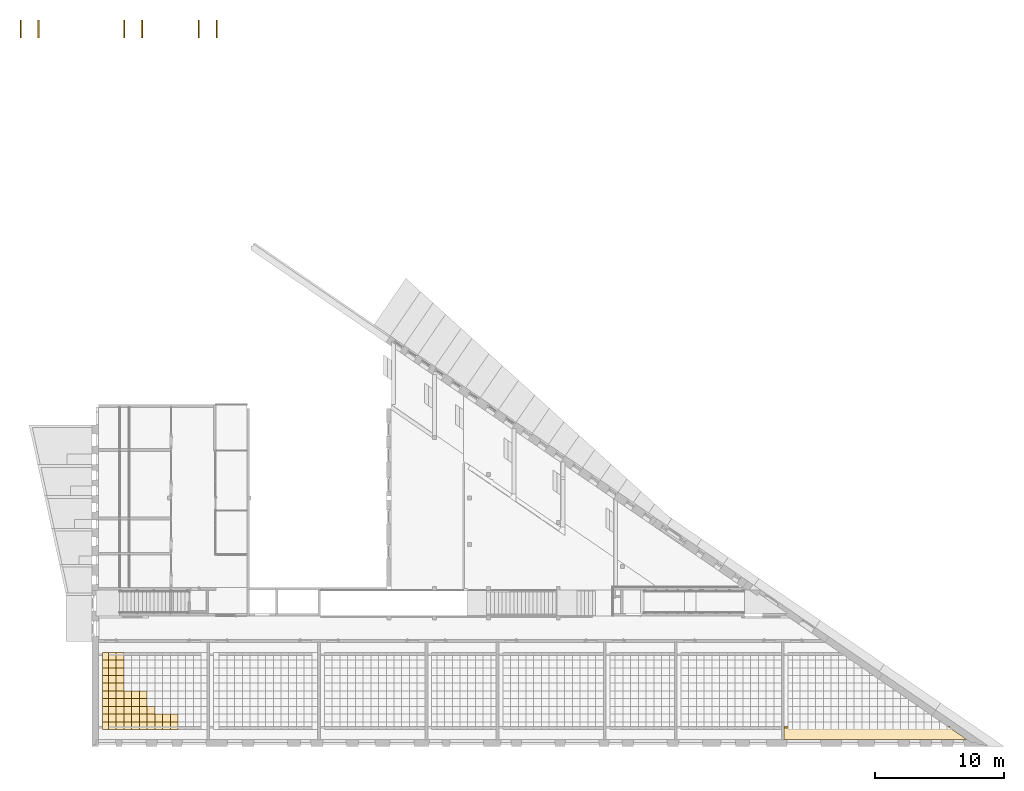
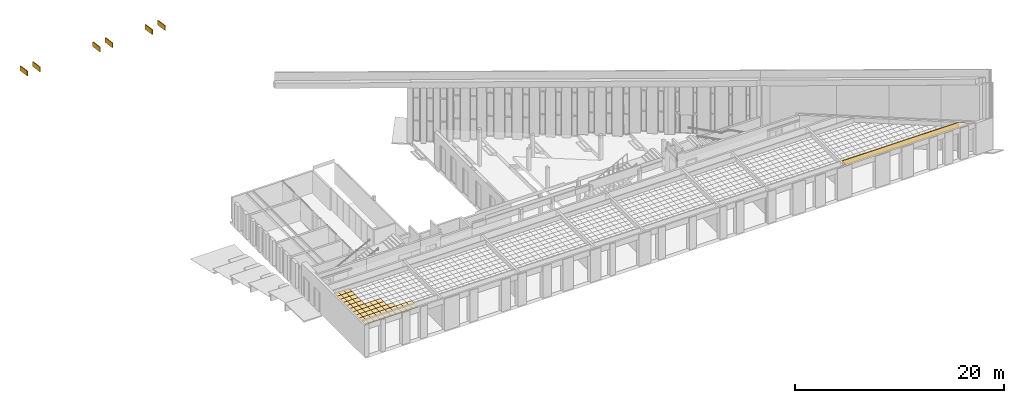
# One storey, part 64 of 79: 62 coverings.
"""IFC2X3 building model written with IfcOpenShell, lengths in millimetres."""

from ifc_helpers import new_model, entity, si_unit, converted_unit, derived_unit, money_unit, direction, frame, origin_with_axes, place, context, subcontext, project, spatial, faceted_brep, material, material_list, type_object, element, save


model = new_model("IFC2X3")

# Units and contexts
model_context = context("Model", 3, precision=0.01, world=origin_with_axes(), true_north=direction((0.0, 1.0)))
body_context = subcontext(model_context, "Body", "Model", "MODEL_VIEW")
ifc_project = project(units=[si_unit("LENGTHUNIT", "METRE", prefix="MILLI"), si_unit("AREAUNIT", "SQUARE_METRE"), si_unit("VOLUMEUNIT", "CUBIC_METRE"), converted_unit("PLANEANGLEUNIT", "DEGREE", entity("IfcPlaneAngleMeasure", 0.0174532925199), si_unit("PLANEANGLEUNIT", "RADIAN"), dimensions=[0, 0, 0, 0, 0, 0, 0]), si_unit("SOLIDANGLEUNIT", "STERADIAN"), money_unit("EUR"), converted_unit("TIMEUNIT", "Year", entity("IfcTimeMeasure", 31556926.0), si_unit("TIMEUNIT", "SECOND"), dimensions=[0, 0, 1, 0, 0, 0, 0]), si_unit("MASSUNIT", "GRAM", prefix="KILO"), si_unit("THERMODYNAMICTEMPERATUREUNIT", "DEGREE_CELSIUS"), si_unit("LUMINOUSINTENSITYUNIT", "LUMEN"), si_unit("ENERGYUNIT", "JOULE", prefix="MEGA"), derived_unit("THERMALCONDUCTANCEUNIT", [(si_unit("POWERUNIT", "WATT"), 1), (si_unit("LENGTHUNIT", "METRE"), -1), (si_unit("THERMODYNAMICTEMPERATUREUNIT", "KELVIN"), -1)]), derived_unit("SPECIFICHEATCAPACITYUNIT", [(si_unit("ENERGYUNIT", "JOULE"), 1), (si_unit("MASSUNIT", "GRAM", prefix="KILO"), -1), (si_unit("THERMODYNAMICTEMPERATUREUNIT", "KELVIN"), -1)]), derived_unit("MASSDENSITYUNIT", [(si_unit("MASSUNIT", "GRAM", prefix="KILO"), 1), (si_unit("VOLUMEUNIT", "CUBIC_METRE"), -1)])], contexts=[model_context])

# Site, building, storey
site_placement = place(None, origin_with_axes())
site = spatial("IfcSite", under=ifc_project, at=site_placement, Name="L.Koidula tn 11b", CompositionType="ELEMENT")
building_placement = place(site_placement, origin_with_axes())
building = spatial("IfcBuilding", under=site, at=building_placement, Name="Rakvere Riigigümnaasium", CompositionType="ELEMENT")
storey_placement = place(building_placement, frame((0.0, 0.0, 3720.0), z_axis=(0.0, 0.0, 1.0), x_axis=(1.0, 0.0, 0.0)))
storey = spatial("IfcBuildingStorey", under=building, at=storey_placement, Name="2.korrus +3,72", CompositionType="ELEMENT", Elevation=3720.0)

# Coverings
ifc_material_1 = material(Name="mineraalvill+karkass")
ifc_material_2 = material(Name="SKR-02_Kipsplaat")
ifc_material_list_1 = material_list([ifc_material_1, ifc_material_2])
covering_type_1 = type_object("IfcCoveringType", Name="SA-LV-kips 79", PredefinedType="CEILING")
covering_1_placement = place(storey_placement, frame((88669.1151496, 6435.45437174, 2762.5), z_axis=(0.0, 0.0, 1.0), x_axis=(1.0, 0.0, 0.0)))
element("IfcCovering", 1, at=covering_1_placement, inside=storey, type_object=covering_type_1, material=ifc_material_list_1, Name="L-04 vert", PredefinedType="CEILING", context=body_context, shape_type="Brep", body=[
    faceted_brep([(12843.9323535, 12.5, 557.500000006), (12843.9323535, 78.5, 557.500000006), (0.0, 78.5, 557.500000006), (0.0, 12.5, 557.500000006), (12843.9323535, 12.5, 0.0), (12843.9323535, 78.5, 0.0), (0.0, 78.5, 0.0), (0.0, 12.5, 0.0)], [[[0, 1, 2, 3]], [[0, 4, 5, 1]], [[1, 5, 6, 2]], [[3, 2, 6, 7]], [[4, 0, 3, 7]], [[5, 4, 7, 6]]]),
    faceted_brep([(12843.9323535, 0.0, 557.500000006), (12843.9323535, 12.5, 557.500000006), (0.0, 12.5, 557.500000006), (0.0, 0.0, 557.500000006), (12843.9323535, 0.0, 0.0), (12843.9323535, 12.5, 0.0), (0.0, 12.5, 0.0), (0.0, 0.0, 0.0)], [[[0, 1, 2, 3]], [[0, 4, 5, 1]], [[1, 5, 6, 2]], [[3, 2, 6, 7]], [[4, 0, 3, 7]], [[5, 4, 7, 6]]]),
])
ifc_material_3 = material(Name="Karkass")
ifc_material_4 = material(Name="Kipsplaat")
ifc_material_list_2 = material_list([ifc_material_3, ifc_material_4])
covering_type_2 = type_object("IfcCoveringType", Name="SA-LV-Kips-moodul 55", PredefinedType="CEILING")
for number, where, z_axis, x_axis, name in (
    (2, (36255.1640196, 6890.45359412, 2750.0), (0.0, 0.0, 1.0), (1.0, 0.0, 0.0), "L-03"),
    (3, (36255.1640196, 6290.45359412, 2750.0), (0.0, 0.0, 1.0), (1.0, 0.0, 0.0), "L-03"),
    (4, (36255.1640196, 11690.4535941, 2750.0), (0.0, 0.0, 1.0), (1.0, 0.0, 0.0), "L-03"),
    (5, (36255.1640196, 7490.45359412, 2750.0), (0.0, 0.0, 1.0), (1.0, 0.0, 0.0), "L-03"),
    (6, (36255.1640196, 8690.45359412, 2750.0), (0.0, 0.0, 1.0), (1.0, 0.0, 0.0), "L-03"),
    (7, (36255.1640196, 8090.45359412, 2750.0), (0.0, 0.0, 1.0), (1.0, 0.0, 0.0), "L-03"),
    (8, (36255.1640196, 9290.45359412, 2750.0), (0.0, 0.0, 1.0), (1.0, 0.0, 0.0), "L-03"),
    (9, (36255.1640196, 10490.4535941, 2750.0), (0.0, 0.0, 1.0), (1.0, 0.0, 0.0), "L-03"),
    (10, (36255.1640196, 9890.45359412, 2750.0), (0.0, 0.0, 1.0), (1.0, 0.0, 0.0), "L-03"),
    (11, (36255.1640196, 11090.4535941, 2750.0), (0.0, 0.0, 1.0), (1.0, 0.0, 0.0), "L-03"),
):
    element("IfcCovering", number, at=place(storey_placement, frame(where, z_axis=z_axis, x_axis=x_axis)), inside=storey, type_object=covering_type_2, material=ifc_material_list_2, Name=name, PredefinedType="CEILING", context=body_context, shape_type="Brep", body=[
        faceted_brep([(599.999948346, 0.0, 12.5), (599.999948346, 0.0, 54.5), (0.0, 0.0, 54.5), (0.0, 0.0, 12.5), (599.999948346, 600.0, 12.5), (599.999948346, 600.0, 54.5), (0.0, 600.0, 54.5), (0.0, 600.0, 12.5)], [[[0, 1, 2, 3]], [[4, 5, 1, 0]], [[2, 1, 5, 6]], [[3, 2, 6, 7]], [[3, 7, 4, 0]], [[7, 6, 5, 4]]]),
        faceted_brep([(0.0, 0.0, 0.0), (599.999948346, 0.0, 0.0), (599.999948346, 0.0, 12.5), (0.0, 0.0, 12.5), (0.0, 600.0, 0.0), (599.999948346, 600.0, 0.0), (599.999948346, 600.0, 12.5), (0.0, 600.0, 12.5)], [[[0, 1, 2, 3]], [[0, 4, 5, 1]], [[1, 5, 6, 2]], [[3, 2, 6, 7]], [[4, 0, 3, 7]], [[5, 4, 7, 6]]]),
    ])
for number, where, z_axis, x_axis, name in (
    (12, (35810.3235284, 8690.45359412, 2750.0), (0.0, 0.0, 1.0), (1.0, 0.0, 0.0), "L-03"),
    (13, (35810.3235284, 8090.45359412, 2750.0), (0.0, 0.0, 1.0), (1.0, 0.0, 0.0), "L-03"),
    (14, (35810.3235284, 7490.45359412, 2750.0), (0.0, 0.0, 1.0), (1.0, 0.0, 0.0), "L-03"),
    (15, (35810.3235284, 11090.4535941, 2750.0), (0.0, 0.0, 1.0), (1.0, 0.0, 0.0), "L-03"),
    (16, (35810.3235284, 10490.4535941, 2750.0), (0.0, 0.0, 1.0), (1.0, 0.0, 0.0), "L-03"),
    (17, (35810.3235284, 9890.45359412, 2750.0), (0.0, 0.0, 1.0), (1.0, 0.0, 0.0), "L-03"),
    (18, (35810.3235284, 6890.45359412, 2750.0), (0.0, 0.0, 1.0), (1.0, 0.0, 0.0), "L-03"),
    (19, (35810.3235284, 6290.45359412, 2750.0), (0.0, 0.0, 1.0), (1.0, 0.0, 0.0), "L-03"),
    (20, (35810.3235284, 9290.45359412, 2750.0), (0.0, 0.0, 1.0), (1.0, 0.0, 0.0), "L-03"),
    (21, (35810.3235284, 11690.4535941, 2750.0), (0.0, 0.0, 1.0), (1.0, 0.0, 0.0), "L-03"),
):
    element("IfcCovering", number, at=place(storey_placement, frame(where, z_axis=z_axis, x_axis=x_axis)), inside=storey, type_object=covering_type_2, material=ifc_material_list_2, Name=name, PredefinedType="CEILING", context=body_context, shape_type="Brep", body=[
        faceted_brep([(444.84049122, 0.0, 12.5), (444.84049122, 0.0, 54.5), (0.0, 0.0, 54.5), (0.0, 0.0, 12.5), (444.84049122, 600.0, 12.5), (444.84049122, 600.0, 54.5), (0.0, 600.0, 54.5), (0.0, 600.0, 12.5)], [[[0, 1, 2, 3]], [[4, 5, 1, 0]], [[2, 1, 5, 6]], [[3, 2, 6, 7]], [[3, 7, 4, 0]], [[7, 6, 5, 4]]]),
        faceted_brep([(0.0, 0.0, 0.0), (444.84049122, 0.0, 0.0), (444.84049122, 0.0, 12.5), (0.0, 0.0, 12.5), (0.0, 600.0, 0.0), (444.84049122, 600.0, 0.0), (444.84049122, 600.0, 12.5), (0.0, 600.0, 12.5)], [[[0, 1, 2, 3]], [[0, 4, 5, 1]], [[1, 5, 6, 2]], [[3, 2, 6, 7]], [[4, 0, 3, 7]], [[5, 4, 7, 6]]]),
    ])
for number, where, z_axis, x_axis, name in (
    (22, (40455.163813, 6290.45359412, 2750.0), (0.0, 0.0, 1.0), (1.0, 0.0, 0.0), "L-03"),
    (23, (40455.163813, 6890.45359412, 2750.0), (0.0, 0.0, 1.0), (1.0, 0.0, 0.0), "L-03"),
):
    element("IfcCovering", number, at=place(storey_placement, frame(where, z_axis=z_axis, x_axis=x_axis)), inside=storey, type_object=covering_type_2, material=ifc_material_list_2, Name=name, PredefinedType="CEILING", context=body_context, shape_type="Brep", body=[
        faceted_brep([(600.0, 0.0, 12.5), (600.0, 0.0, 54.5), (0.0, 0.0, 54.5), (0.0, 0.0, 12.5), (600.0, 600.0, 12.5), (600.0, 600.0, 54.5), (0.0, 600.0, 54.5), (0.0, 600.0, 12.5)], [[[0, 1, 2, 3]], [[4, 5, 1, 0]], [[2, 1, 5, 6]], [[3, 2, 6, 7]], [[3, 7, 4, 0]], [[7, 6, 5, 4]]]),
        faceted_brep([(0.0, 0.0, 0.0), (600.0, 0.0, 0.0), (600.0, 0.0, 12.5), (0.0, 0.0, 12.5), (0.0, 600.0, 0.0), (600.0, 600.0, 0.0), (600.0, 600.0, 12.5), (0.0, 600.0, 12.5)], [[[0, 1, 2, 3]], [[0, 4, 5, 1]], [[1, 5, 6, 2]], [[3, 2, 6, 7]], [[4, 0, 3, 7]], [[5, 4, 7, 6]]]),
    ])
for number, where, z_axis, x_axis, name in (
    (24, (38655.1639163, 6290.45359412, 2750.0), (0.0, 0.0, 1.0), (1.0, 0.0, 0.0), "L-03"),
    (25, (41055.163813, 6290.45359412, 2750.0), (0.0, 0.0, 1.0), (1.0, 0.0, 0.0), "L-03"),
    (26, (38655.1639163, 7490.45359412, 2750.0), (0.0, 0.0, 1.0), (1.0, 0.0, 0.0), "L-03"),
    (27, (38655.1639163, 8090.45359412, 2750.0), (0.0, 0.0, 1.0), (1.0, 0.0, 0.0), "L-03"),
    (28, (38655.1639163, 8690.45359412, 2750.0), (0.0, 0.0, 1.0), (1.0, 0.0, 0.0), "L-03"),
):
    element("IfcCovering", number, at=place(storey_placement, frame(where, z_axis=z_axis, x_axis=x_axis)), inside=storey, type_object=covering_type_2, material=ifc_material_list_2, Name=name, PredefinedType="CEILING", context=body_context, shape_type="Brep", body=[
        faceted_brep([(599.999948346, 0.0, 12.5), (599.999948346, 0.0, 54.5), (0.0, 0.0, 54.5), (0.0, 0.0, 12.5), (599.999948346, 600.0, 12.5), (599.999948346, 600.0, 54.5), (0.0, 600.0, 54.5), (0.0, 600.0, 12.5)], [[[0, 1, 2, 3]], [[4, 5, 1, 0]], [[2, 1, 5, 6]], [[3, 2, 6, 7]], [[3, 7, 4, 0]], [[7, 6, 5, 4]]]),
        faceted_brep([(0.0, 0.0, 0.0), (599.999948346, 0.0, 0.0), (599.999948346, 0.0, 12.5), (0.0, 0.0, 12.5), (0.0, 600.0, 0.0), (599.999948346, 600.0, 0.0), (599.999948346, 600.0, 12.5), (0.0, 600.0, 12.5)], [[[0, 1, 2, 3]], [[0, 4, 5, 1]], [[1, 5, 6, 2]], [[3, 2, 6, 7]], [[4, 0, 3, 7]], [[5, 4, 7, 6]]]),
    ])
for number, where, z_axis, x_axis, name in (
    (29, (36855.163968, 6290.45359412, 2750.0), (0.0, 0.0, 1.0), (1.0, 0.0, 0.0), "L-03"),
    (30, (36855.163968, 6890.45359412, 2750.0), (0.0, 0.0, 1.0), (1.0, 0.0, 0.0), "L-03"),
    (31, (36855.163968, 11090.4535941, 2750.0), (0.0, 0.0, 1.0), (1.0, 0.0, 0.0), "L-03"),
    (32, (36855.163968, 11690.4535941, 2750.0), (0.0, 0.0, 1.0), (1.0, 0.0, 0.0), "L-03"),
    (33, (36855.163968, 9290.45359412, 2750.0), (0.0, 0.0, 1.0), (1.0, 0.0, 0.0), "L-03"),
    (34, (36855.163968, 9890.45359412, 2750.0), (0.0, 0.0, 1.0), (1.0, 0.0, 0.0), "L-03"),
    (35, (39255.1638647, 6890.45359412, 2750.0), (0.0, 0.0, 1.0), (1.0, 0.0, 0.0), "L-03"),
    (36, (36855.163968, 10490.4535941, 2750.0), (0.0, 0.0, 1.0), (1.0, 0.0, 0.0), "L-03"),
):
    element("IfcCovering", number, at=place(storey_placement, frame(where, z_axis=z_axis, x_axis=x_axis)), inside=storey, type_object=covering_type_2, material=ifc_material_list_2, Name=name, PredefinedType="CEILING", context=body_context, shape_type="Brep", body=[
        faceted_brep([(600.0, 0.0, 12.5), (600.0, 0.0, 54.5), (0.0, 0.0, 54.5), (0.0, 0.0, 12.5), (600.0, 600.0, 12.5), (600.0, 600.0, 54.5), (0.0, 600.0, 54.5), (0.0, 600.0, 12.5)], [[[0, 1, 2, 3]], [[4, 5, 1, 0]], [[2, 1, 5, 6]], [[3, 2, 6, 7]], [[3, 7, 4, 0]], [[7, 6, 5, 4]]]),
        faceted_brep([(0.0, 0.0, 0.0), (600.0, 0.0, 0.0), (600.0, 0.0, 12.5), (0.0, 0.0, 12.5), (0.0, 600.0, 0.0), (600.0, 600.0, 0.0), (600.0, 600.0, 12.5), (0.0, 600.0, 12.5)], [[[0, 1, 2, 3]], [[0, 4, 5, 1]], [[1, 5, 6, 2]], [[3, 2, 6, 7]], [[4, 0, 3, 7]], [[5, 4, 7, 6]]]),
    ])
covering_2_placement = place(storey_placement, frame((37455.163968, 8690.45359412, 2750.0), z_axis=(0.0, 0.0, 1.0), x_axis=(1.0, 0.0, 0.0)))
element("IfcCovering", 37, at=covering_2_placement, inside=storey, type_object=covering_type_2, material=ifc_material_list_2, Name="L-03", PredefinedType="CEILING", context=body_context, shape_type="Brep", body=[
    faceted_brep([(599.999948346, 0.0, 12.5), (599.999948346, 0.0, 54.5), (0.0, 0.0, 54.5), (0.0, 0.0, 12.5), (599.999948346, 600.0, 12.5), (599.999948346, 600.0, 54.5), (0.0, 600.0, 54.5), (0.0, 600.0, 12.5)], [[[0, 1, 2, 3]], [[4, 5, 1, 0]], [[2, 1, 5, 6]], [[3, 2, 6, 7]], [[3, 7, 4, 0]], [[7, 6, 5, 4]]]),
    faceted_brep([(0.0, 0.0, 0.0), (599.999948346, 0.0, 0.0), (599.999948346, 0.0, 12.5), (0.0, 0.0, 12.5), (0.0, 600.0, 0.0), (599.999948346, 600.0, 0.0), (599.999948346, 600.0, 12.5), (0.0, 600.0, 12.5)], [[[0, 1, 2, 3]], [[0, 4, 5, 1]], [[1, 5, 6, 2]], [[3, 2, 6, 7]], [[4, 0, 3, 7]], [[5, 4, 7, 6]]]),
])
for number, where, z_axis, x_axis, name in (
    (38, (39255.1638647, 6290.45359412, 2750.0), (0.0, 0.0, 1.0), (1.0, 0.0, 0.0), "L-03"),
    (39, (38055.1639163, 8090.45359412, 2750.0), (0.0, 0.0, 1.0), (1.0, 0.0, 0.0), "L-03"),
    (40, (38055.1639163, 7490.45359412, 2750.0), (0.0, 0.0, 1.0), (1.0, 0.0, 0.0), "L-03"),
):
    element("IfcCovering", number, at=place(storey_placement, frame(where, z_axis=z_axis, x_axis=x_axis)), inside=storey, type_object=covering_type_2, material=ifc_material_list_2, Name=name, PredefinedType="CEILING", context=body_context, shape_type="Brep", body=[
        faceted_brep([(600.0, 0.0, 12.5), (600.0, 0.0, 54.5), (0.0, 0.0, 54.5), (0.0, 0.0, 12.5), (600.0, 600.0, 12.5), (600.0, 600.0, 54.5), (0.0, 600.0, 54.5), (0.0, 600.0, 12.5)], [[[0, 1, 2, 3]], [[4, 5, 1, 0]], [[2, 1, 5, 6]], [[3, 2, 6, 7]], [[3, 7, 4, 0]], [[7, 6, 5, 4]]]),
        faceted_brep([(0.0, 0.0, 0.0), (600.0, 0.0, 0.0), (600.0, 0.0, 12.5), (0.0, 0.0, 12.5), (0.0, 600.0, 0.0), (600.0, 600.0, 0.0), (600.0, 600.0, 12.5), (0.0, 600.0, 12.5)], [[[0, 1, 2, 3]], [[0, 4, 5, 1]], [[1, 5, 6, 2]], [[3, 2, 6, 7]], [[4, 0, 3, 7]], [[5, 4, 7, 6]]]),
    ])
for number, where, z_axis, x_axis, name in (
    (41, (38655.1639163, 6890.45359412, 2750.0), (0.0, 0.0, 1.0), (1.0, 0.0, 0.0), "L-03"),
    (42, (37455.163968, 8090.45359412, 2750.0), (0.0, 0.0, 1.0), (1.0, 0.0, 0.0), "L-03"),
):
    element("IfcCovering", number, at=place(storey_placement, frame(where, z_axis=z_axis, x_axis=x_axis)), inside=storey, type_object=covering_type_2, material=ifc_material_list_2, Name=name, PredefinedType="CEILING", context=body_context, shape_type="Brep", body=[
        faceted_brep([(599.999948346, 0.0, 12.5), (599.999948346, 0.0, 54.5), (0.0, 0.0, 54.5), (0.0, 0.0, 12.5), (599.999948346, 600.0, 12.5), (599.999948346, 600.0, 54.5), (0.0, 600.0, 54.5), (0.0, 600.0, 12.5)], [[[0, 1, 2, 3]], [[4, 5, 1, 0]], [[2, 1, 5, 6]], [[3, 2, 6, 7]], [[3, 7, 4, 0]], [[7, 6, 5, 4]]]),
        faceted_brep([(0.0, 0.0, 0.0), (599.999948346, 0.0, 0.0), (599.999948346, 0.0, 12.5), (0.0, 0.0, 12.5), (0.0, 600.0, 0.0), (599.999948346, 600.0, 0.0), (599.999948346, 600.0, 12.5), (0.0, 600.0, 12.5)], [[[0, 1, 2, 3]], [[0, 4, 5, 1]], [[1, 5, 6, 2]], [[3, 2, 6, 7]], [[4, 0, 3, 7]], [[5, 4, 7, 6]]]),
    ])
covering_3_placement = place(storey_placement, frame((38055.1639163, 6290.45359412, 2750.0), z_axis=(0.0, 0.0, 1.0), x_axis=(1.0, 0.0, 0.0)))
element("IfcCovering", 43, at=covering_3_placement, inside=storey, type_object=covering_type_2, material=ifc_material_list_2, Name="L-03", PredefinedType="CEILING", context=body_context, shape_type="Brep", body=[
    faceted_brep([(600.0, 0.0, 12.5), (600.0, 0.0, 54.5), (0.0, 0.0, 54.5), (0.0, 0.0, 12.5), (600.0, 600.0, 12.5), (600.0, 600.0, 54.5), (0.0, 600.0, 54.5), (0.0, 600.0, 12.5)], [[[0, 1, 2, 3]], [[4, 5, 1, 0]], [[2, 1, 5, 6]], [[3, 2, 6, 7]], [[3, 7, 4, 0]], [[7, 6, 5, 4]]]),
    faceted_brep([(0.0, 0.0, 0.0), (600.0, 0.0, 0.0), (600.0, 0.0, 12.5), (0.0, 0.0, 12.5), (0.0, 600.0, 0.0), (600.0, 600.0, 0.0), (600.0, 600.0, 12.5), (0.0, 600.0, 12.5)], [[[0, 1, 2, 3]], [[0, 4, 5, 1]], [[1, 5, 6, 2]], [[3, 2, 6, 7]], [[4, 0, 3, 7]], [[5, 4, 7, 6]]]),
])
covering_4_placement = place(storey_placement, frame((41055.163813, 6890.45359412, 2750.0), z_axis=(0.0, 0.0, 1.0), x_axis=(1.0, 0.0, 0.0)))
element("IfcCovering", 44, at=covering_4_placement, inside=storey, type_object=covering_type_2, material=ifc_material_list_2, Name="L-03", PredefinedType="CEILING", context=body_context, shape_type="Brep", body=[
    faceted_brep([(599.999948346, 0.0, 12.5), (599.999948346, 0.0, 54.5), (0.0, 0.0, 54.5), (0.0, 0.0, 12.5), (599.999948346, 600.0, 12.5), (599.999948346, 600.0, 54.5), (0.0, 600.0, 54.5), (0.0, 600.0, 12.5)], [[[0, 1, 2, 3]], [[4, 5, 1, 0]], [[2, 1, 5, 6]], [[3, 2, 6, 7]], [[3, 7, 4, 0]], [[7, 6, 5, 4]]]),
    faceted_brep([(0.0, 0.0, 0.0), (599.999948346, 0.0, 0.0), (599.999948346, 0.0, 12.5), (0.0, 0.0, 12.5), (0.0, 600.0, 0.0), (599.999948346, 600.0, 0.0), (599.999948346, 600.0, 12.5), (0.0, 600.0, 12.5)], [[[0, 1, 2, 3]], [[0, 4, 5, 1]], [[1, 5, 6, 2]], [[3, 2, 6, 7]], [[4, 0, 3, 7]], [[5, 4, 7, 6]]]),
])
covering_5_placement = place(storey_placement, frame((39255.1638647, 7490.45359412, 2750.0), z_axis=(0.0, 0.0, 1.0), x_axis=(1.0, 0.0, 0.0)))
element("IfcCovering", 45, at=covering_5_placement, inside=storey, type_object=covering_type_2, material=ifc_material_list_2, Name="L-03", PredefinedType="CEILING", context=body_context, shape_type="Brep", body=[
    faceted_brep([(600.0, 0.0, 12.5), (600.0, 0.0, 54.5), (0.0, 0.0, 54.5), (0.0, 0.0, 12.5), (600.0, 600.0, 12.5), (600.0, 600.0, 54.5), (0.0, 600.0, 54.5), (0.0, 600.0, 12.5)], [[[0, 1, 2, 3]], [[4, 5, 1, 0]], [[2, 1, 5, 6]], [[3, 2, 6, 7]], [[3, 7, 4, 0]], [[7, 6, 5, 4]]]),
    faceted_brep([(0.0, 0.0, 0.0), (600.0, 0.0, 0.0), (600.0, 0.0, 12.5), (0.0, 0.0, 12.5), (0.0, 600.0, 0.0), (600.0, 600.0, 0.0), (600.0, 600.0, 12.5), (0.0, 600.0, 12.5)], [[[0, 1, 2, 3]], [[0, 4, 5, 1]], [[1, 5, 6, 2]], [[3, 2, 6, 7]], [[4, 0, 3, 7]], [[5, 4, 7, 6]]]),
])
for number, where, z_axis, x_axis, name in (
    (46, (39855.1638647, 6890.45359412, 2750.0), (0.0, 0.0, 1.0), (1.0, 0.0, 0.0), "L-03"),
    (47, (39855.1638647, 6290.45359412, 2750.0), (0.0, 0.0, 1.0), (1.0, 0.0, 0.0), "L-03"),
):
    element("IfcCovering", number, at=place(storey_placement, frame(where, z_axis=z_axis, x_axis=x_axis)), inside=storey, type_object=covering_type_2, material=ifc_material_list_2, Name=name, PredefinedType="CEILING", context=body_context, shape_type="Brep", body=[
        faceted_brep([(599.999948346, 0.0, 12.5), (599.999948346, 0.0, 54.5), (0.0, 0.0, 54.5), (0.0, 0.0, 12.5), (599.999948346, 600.0, 12.5), (599.999948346, 600.0, 54.5), (0.0, 600.0, 54.5), (0.0, 600.0, 12.5)], [[[0, 1, 2, 3]], [[4, 5, 1, 0]], [[2, 1, 5, 6]], [[3, 2, 6, 7]], [[3, 7, 4, 0]], [[7, 6, 5, 4]]]),
        faceted_brep([(0.0, 0.0, 0.0), (599.999948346, 0.0, 0.0), (599.999948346, 0.0, 12.5), (0.0, 0.0, 12.5), (0.0, 600.0, 0.0), (599.999948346, 600.0, 0.0), (599.999948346, 600.0, 12.5), (0.0, 600.0, 12.5)], [[[0, 1, 2, 3]], [[0, 4, 5, 1]], [[1, 5, 6, 2]], [[3, 2, 6, 7]], [[4, 0, 3, 7]], [[5, 4, 7, 6]]]),
    ])
for number, where, z_axis, x_axis, name in (
    (48, (38055.1639163, 6890.45359412, 2750.0), (0.0, 0.0, 1.0), (1.0, 0.0, 0.0), "L-03"),
    (49, (38055.1639163, 8690.45359412, 2750.0), (0.0, 0.0, 1.0), (1.0, 0.0, 0.0), "L-03"),
):
    element("IfcCovering", number, at=place(storey_placement, frame(where, z_axis=z_axis, x_axis=x_axis)), inside=storey, type_object=covering_type_2, material=ifc_material_list_2, Name=name, PredefinedType="CEILING", context=body_context, shape_type="Brep", body=[
        faceted_brep([(600.0, 0.0, 12.5), (600.0, 0.0, 54.5), (0.0, 0.0, 54.5), (0.0, 0.0, 12.5), (600.0, 600.0, 12.5), (600.0, 600.0, 54.5), (0.0, 600.0, 54.5), (0.0, 600.0, 12.5)], [[[0, 1, 2, 3]], [[4, 5, 1, 0]], [[2, 1, 5, 6]], [[3, 2, 6, 7]], [[3, 7, 4, 0]], [[7, 6, 5, 4]]]),
        faceted_brep([(0.0, 0.0, 0.0), (600.0, 0.0, 0.0), (600.0, 0.0, 12.5), (0.0, 0.0, 12.5), (0.0, 600.0, 0.0), (600.0, 600.0, 0.0), (600.0, 600.0, 12.5), (0.0, 600.0, 12.5)], [[[0, 1, 2, 3]], [[0, 4, 5, 1]], [[1, 5, 6, 2]], [[3, 2, 6, 7]], [[4, 0, 3, 7]], [[5, 4, 7, 6]]]),
    ])
for number, where, z_axis, x_axis, name in (
    (50, (37455.163968, 6890.45359412, 2750.0), (0.0, 0.0, 1.0), (1.0, 0.0, 0.0), "L-03"),
    (51, (37455.163968, 6290.45359412, 2750.0), (0.0, 0.0, 1.0), (1.0, 0.0, 0.0), "L-03"),
    (52, (37455.163968, 7490.45359412, 2750.0), (0.0, 0.0, 1.0), (1.0, 0.0, 0.0), "L-03"),
):
    element("IfcCovering", number, at=place(storey_placement, frame(where, z_axis=z_axis, x_axis=x_axis)), inside=storey, type_object=covering_type_2, material=ifc_material_list_2, Name=name, PredefinedType="CEILING", context=body_context, shape_type="Brep", body=[
        faceted_brep([(599.999948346, 0.0, 12.5), (599.999948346, 0.0, 54.5), (0.0, 0.0, 54.5), (0.0, 0.0, 12.5), (599.999948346, 600.0, 12.5), (599.999948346, 600.0, 54.5), (0.0, 600.0, 54.5), (0.0, 600.0, 12.5)], [[[0, 1, 2, 3]], [[4, 5, 1, 0]], [[2, 1, 5, 6]], [[3, 2, 6, 7]], [[3, 7, 4, 0]], [[7, 6, 5, 4]]]),
        faceted_brep([(0.0, 0.0, 0.0), (599.999948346, 0.0, 0.0), (599.999948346, 0.0, 12.5), (0.0, 0.0, 12.5), (0.0, 600.0, 0.0), (599.999948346, 600.0, 0.0), (599.999948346, 600.0, 12.5), (0.0, 600.0, 12.5)], [[[0, 1, 2, 3]], [[0, 4, 5, 1]], [[1, 5, 6, 2]], [[3, 2, 6, 7]], [[4, 0, 3, 7]], [[5, 4, 7, 6]]]),
    ])
for number, where, z_axis, x_axis, name in (
    (53, (36855.163968, 8690.45359412, 2750.0), (0.0, 0.0, 1.0), (1.0, 0.0, 0.0), "L-03"),
    (54, (36855.163968, 7490.45359412, 2750.0), (0.0, 0.0, 1.0), (1.0, 0.0, 0.0), "L-03"),
    (55, (36855.163968, 8090.45359412, 2750.0), (0.0, 0.0, 1.0), (1.0, 0.0, 0.0), "L-03"),
):
    element("IfcCovering", number, at=place(storey_placement, frame(where, z_axis=z_axis, x_axis=x_axis)), inside=storey, type_object=covering_type_2, material=ifc_material_list_2, Name=name, PredefinedType="CEILING", context=body_context, shape_type="Brep", body=[
        faceted_brep([(600.0, 0.0, 12.5), (600.0, 0.0, 54.5), (0.0, 0.0, 54.5), (0.0, 0.0, 12.5), (600.0, 600.0, 12.5), (600.0, 600.0, 54.5), (0.0, 600.0, 54.5), (0.0, 600.0, 12.5)], [[[0, 1, 2, 3]], [[4, 5, 1, 0]], [[2, 1, 5, 6]], [[3, 2, 6, 7]], [[3, 7, 4, 0]], [[7, 6, 5, 4]]]),
        faceted_brep([(0.0, 0.0, 0.0), (600.0, 0.0, 0.0), (600.0, 0.0, 12.5), (0.0, 0.0, 12.5), (0.0, 600.0, 0.0), (600.0, 600.0, 0.0), (600.0, 600.0, 12.5), (0.0, 600.0, 12.5)], [[[0, 1, 2, 3]], [[0, 4, 5, 1]], [[1, 5, 6, 2]], [[3, 2, 6, 7]], [[4, 0, 3, 7]], [[5, 4, 7, 6]]]),
    ])
ifc_material_5 = material(Name="Salto-siseviimistlus-ripplagi")
covering_type_3 = type_object("IfcCoveringType", Name="Salto-siseviimistlus-ripplagi 1", PredefinedType="CLADDING")
covering_6_placement = place(storey_placement, frame((88670.0000019, 6290.45366981, 3320.00000001), z_axis=(0.0, 0.0, 1.0), x_axis=(1.0, 0.0, 0.0)))
element("IfcCovering", 56, at=covering_6_placement, inside=storey, type_object=covering_type_3, material=ifc_material_5, Name="L-09", PredefinedType="CLADDING", context=body_context, shape_type="Brep", body=[
    faceted_brep([(14192.0620495, -779.998130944, -1.0), (12843.0475012, 145.259972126, -1.0), (12843.0475012, 145.259972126, 0.0), (14192.0620495, -779.998130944, 0.0), (0.0, 145.00070193, -1.0), (12843.0475012, 145.00070193, -1.0), (0.0, -779.998130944, -1.0), (12843.0475012, 145.00070193, 0.0), (0.0, 145.00070193, 0.0), (0.0, -779.998130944, 0.0)], [[[0, 1, 2, 3]], [[4, 5, 1, 0, 6]], [[5, 7, 2, 1]], [[2, 7, 8, 9, 3]], [[3, 9, 6, 0]], [[4, 8, 7, 5]], [[9, 8, 4, 6]]]),
])
ifc_material_list_3 = material_list([ifc_material_1, ifc_material_2, ifc_material_2])
covering_type_4 = type_object("IfcCoveringType", Name="SA-2xkips 91", PredefinedType="NOTDEFINED")
covering_7_placement = place(storey_placement, frame((30789.9900192, 61330.4546496, 1231.61519715), z_axis=(0.0, 0.0, 1.0), x_axis=(0.0, -1.0, 0.0)))
element("IfcCovering", 57, at=covering_7_placement, inside=storey, type_object=covering_type_4, material=ifc_material_list_3, Name="Ava-pinnakate", PredefinedType="NOTDEFINED", context=body_context, shape_type="Brep", body=[
    faceted_brep([(1379.8608269, 91.0, 309.509741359), (0.0, 91.0, 113.126464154), (0.0, 91.0, 666.708369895), (1379.21688082, 91.0, 863.0), (1379.8608269, 91.0, 863.0), (0.0, 25.0, 113.126464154), (1379.8608269, 25.0, 309.509741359), (0.0, 25.0, 666.70835025), (1379.21701884, 25.0, 863.0), (1379.8608269, 25.0, 863.0)], [[[0, 1, 2, 3, 4]], [[5, 1, 0, 6]], [[1, 5, 7, 2]], [[2, 7, 8, 3]], [[3, 8, 9, 4]], [[6, 0, 4, 9]], [[5, 6, 9, 8, 7]]]),
    faceted_brep([(1379.8608269, 25.0, 309.509741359), (0.0, 25.0, 113.126464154), (0.0, 25.0, 666.70835025), (1379.21701884, 25.0, 863.0), (1379.8608269, 25.0, 863.0), (0.0, 12.5, 113.126464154), (1379.8608269, 12.5, 309.509741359), (0.0, 12.5, 666.70835025), (1379.21701884, 12.5, 863.0), (1379.8608269, 12.5, 863.0)], [[[0, 1, 2, 3, 4]], [[5, 1, 0, 6]], [[1, 5, 7, 2]], [[8, 3, 2, 7]], [[4, 3, 8, 9]], [[6, 0, 4, 9]], [[5, 6, 9, 8, 7]]]),
    faceted_brep([(1379.8608269, 12.5, 309.509741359), (0.0, 12.5, 113.126464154), (0.0, 12.5, 666.70835025), (1379.21701884, 12.5, 863.0), (1379.8608269, 12.5, 863.0), (0.0, 0.0, 113.126464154), (1379.8608269, 0.0, 309.509741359), (0.0, 0.0, 666.70835025), (1379.21701884, 0.0, 863.0), (1379.8608269, 0.0, 863.0)], [[[0, 1, 2, 3, 4]], [[5, 1, 0, 6]], [[1, 5, 7, 2]], [[8, 3, 2, 7]], [[4, 3, 8, 9]], [[6, 0, 4, 9]], [[5, 6, 9, 8, 7]]]),
])
ifc_material_list_4 = material_list([ifc_material_2, ifc_material_2, ifc_material_1])
covering_8_placement = place(storey_placement, frame((29489.9900192, 61330.4546496, 1231.61519715), z_axis=(0.0, 0.0, 1.0), x_axis=(0.0, -1.0, 0.0)))
element("IfcCovering", 58, at=covering_8_placement, inside=storey, type_object=covering_type_4, material=ifc_material_list_4, Name="Ava-pinnakate", PredefinedType="NOTDEFINED", context=body_context, shape_type="Brep", body=[
    faceted_brep([(1380.0, 0.0, 309.529548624), (0.0, 0.0, 113.126464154), (0.0, 0.0, 666.70835025), (1379.21701884, 0.0, 863.0), (1380.0, 0.0, 863.0), (0.0, -12.5, 113.126464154), (1380.0, -12.5, 309.529548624), (0.0, -12.5, 666.70835025), (1379.21701884, -12.5, 863.0), (1380.0, -12.5, 863.0)], [[[0, 1, 2, 3, 4]], [[5, 1, 0, 6]], [[1, 5, 7, 2]], [[8, 3, 2, 7]], [[4, 3, 8, 9]], [[6, 0, 4, 9]], [[5, 6, 9, 8, 7]]]),
    faceted_brep([(1380.0, -12.5, 309.529548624), (0.0, -12.5, 113.126464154), (0.0, -12.5, 666.70835025), (1379.21701884, -12.5, 863.0), (1380.0, -12.5, 863.0), (0.0, -25.0, 113.126464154), (1380.0, -25.0, 309.529548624), (0.0, -25.0, 666.70835025), (1379.21701884, -25.0, 863.0), (1380.0, -25.0, 863.0)], [[[0, 1, 2, 3, 4]], [[5, 1, 0, 6]], [[1, 5, 7, 2]], [[8, 3, 2, 7]], [[4, 3, 8, 9]], [[6, 0, 4, 9]], [[5, 6, 9, 8, 7]]]),
    faceted_brep([(1380.0, -25.0, 309.529548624), (0.0, -25.0, 113.126464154), (0.0, -25.0, 666.70835025), (1379.21701884, -25.0, 863.0), (1380.0, -25.0, 863.0), (0.0, -91.0, 113.126464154), (1380.0, -91.0, 309.529548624), (0.0, -91.0, 666.708378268), (1379.21682198, -91.0, 863.0), (1380.0, -91.0, 863.0)], [[[0, 1, 2, 3, 4]], [[5, 1, 0, 6]], [[1, 5, 7, 2]], [[3, 2, 7, 8]], [[4, 3, 8, 9]], [[6, 0, 4, 9]], [[5, 6, 9, 8, 7]]]),
])
covering_9_placement = place(storey_placement, frame((37519.9999911, 61330.4546496, 1231.61519715), z_axis=(0.0, 0.0, 1.0), x_axis=(0.0, -1.0, 0.0)))
element("IfcCovering", 59, at=covering_9_placement, inside=storey, type_object=covering_type_4, material=ifc_material_list_4, Name="Ava-pinnakate", PredefinedType="NOTDEFINED", context=body_context, shape_type="Brep", body=[
    faceted_brep([(1380.0, 0.0, 309.529548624), (0.0, 0.0, 113.126464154), (0.0, 0.0, 666.70835025), (1379.21701884, 0.0, 863.0), (1380.0, 0.0, 863.0), (0.0, -12.5, 113.126464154), (1380.0, -12.5, 309.529548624), (0.0, -12.5, 666.70835025), (1379.21701884, -12.5, 863.0), (1380.0, -12.5, 863.0)], [[[0, 1, 2, 3, 4]], [[5, 1, 0, 6]], [[1, 5, 7, 2]], [[8, 3, 2, 7]], [[4, 3, 8, 9]], [[6, 0, 4, 9]], [[5, 6, 9, 8, 7]]]),
    faceted_brep([(1380.0, -12.5, 309.529548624), (0.0, -12.5, 113.126464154), (0.0, -12.5, 666.70835025), (1379.21701884, -12.5, 863.0), (1380.0, -12.5, 863.0), (0.0, -25.0, 113.126464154), (1380.0, -25.0, 309.529548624), (0.0, -25.0, 666.70835025), (1379.21701884, -25.0, 863.0), (1380.0, -25.0, 863.0)], [[[0, 1, 2, 3, 4]], [[5, 1, 0, 6]], [[1, 5, 7, 2]], [[8, 3, 2, 7]], [[4, 3, 8, 9]], [[6, 0, 4, 9]], [[5, 6, 9, 8, 7]]]),
    faceted_brep([(1380.0, -25.0, 309.529548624), (0.0, -25.0, 113.126464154), (0.0, -25.0, 666.70835025), (1379.21701884, -25.0, 863.0), (1380.0, -25.0, 863.0), (0.0, -91.0, 113.126464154), (1380.0, -91.0, 309.529548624), (0.0, -91.0, 666.708332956), (1379.21714036, -91.0, 863.0), (1380.0, -91.0, 863.0)], [[[0, 1, 2, 3, 4]], [[5, 1, 0, 6]], [[1, 5, 7, 2]], [[2, 7, 8, 3]], [[4, 3, 8, 9]], [[6, 0, 4, 9]], [[5, 6, 9, 8, 7]]]),
])
covering_10_placement = place(storey_placement, frame((38819.9999911, 61330.4546496, 1231.61519715), z_axis=(0.0, 0.0, 1.0), x_axis=(0.0, -1.0, 0.0)))
element("IfcCovering", 60, at=covering_10_placement, inside=storey, type_object=covering_type_4, material=ifc_material_list_3, Name="Ava-pinnakate", PredefinedType="NOTDEFINED", context=body_context, shape_type="Brep", body=[
    faceted_brep([(1379.8608269, 91.0, 309.509741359), (0.0, 91.0, 113.126464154), (0.0, 91.0, 666.708324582), (1379.2171992, 91.0, 863.0), (1379.8608269, 91.0, 863.0), (0.0, 25.0, 113.126464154), (1379.8608269, 25.0, 309.509741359), (0.0, 25.0, 666.70835025), (1379.21701884, 25.0, 863.0), (1379.8608269, 25.0, 863.0)], [[[0, 1, 2, 3, 4]], [[5, 1, 0, 6]], [[1, 5, 7, 2]], [[8, 3, 2, 7]], [[3, 8, 9, 4]], [[6, 0, 4, 9]], [[5, 6, 9, 8, 7]]]),
    faceted_brep([(1379.8608269, 25.0, 309.509741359), (0.0, 25.0, 113.126464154), (0.0, 25.0, 666.70835025), (1379.21701884, 25.0, 863.0), (1379.8608269, 25.0, 863.0), (0.0, 12.5, 113.126464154), (1379.8608269, 12.5, 309.509741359), (0.0, 12.5, 666.70835025), (1379.21701884, 12.5, 863.0), (1379.8608269, 12.5, 863.0)], [[[0, 1, 2, 3, 4]], [[5, 1, 0, 6]], [[1, 5, 7, 2]], [[8, 3, 2, 7]], [[4, 3, 8, 9]], [[6, 0, 4, 9]], [[5, 6, 9, 8, 7]]]),
    faceted_brep([(1379.8608269, 12.5, 309.509741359), (0.0, 12.5, 113.126464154), (0.0, 12.5, 666.70835025), (1379.21701884, 12.5, 863.0), (1379.8608269, 12.5, 863.0), (0.0, 0.0, 113.126464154), (1379.8608269, 0.0, 309.509741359), (0.0, 0.0, 666.70835025), (1379.21701884, 0.0, 863.0), (1379.8608269, 0.0, 863.0)], [[[0, 1, 2, 3, 4]], [[5, 1, 0, 6]], [[1, 5, 7, 2]], [[8, 3, 2, 7]], [[4, 3, 8, 9]], [[6, 0, 4, 9]], [[5, 6, 9, 8, 7]]]),
])
covering_11_placement = place(storey_placement, frame((43319.9999911, 61339.3648625, 1231.61519715), z_axis=(0.0, 0.0, 1.0), x_axis=(0.0, -1.0, 0.0)))
element("IfcCovering", 61, at=covering_11_placement, inside=storey, type_object=covering_type_4, material=ifc_material_list_4, Name="Ava-pinnakate", PredefinedType="NOTDEFINED", context=body_context, shape_type="Brep", body=[
    faceted_brep([(1388.91021292, 0.0, 309.529548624), (0.0, 0.0, 111.858353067), (0.0, 0.0, 665.440188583), (1388.12723176, 0.0, 863.0), (1388.91021292, 0.0, 863.0), (0.0, -12.5, 111.858353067), (1388.91021292, -12.5, 309.529548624), (0.0, -12.5, 665.440188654), (1388.12723176, -12.5, 863.0), (1388.91021292, -12.5, 863.0)], [[[0, 1, 2, 3, 4]], [[5, 1, 0, 6]], [[1, 5, 7, 2]], [[8, 3, 2, 7]], [[4, 3, 8, 9]], [[6, 0, 4, 9]], [[5, 6, 9, 8, 7]]]),
    faceted_brep([(1388.91021292, -12.5, 309.529548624), (0.0, -12.5, 111.858353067), (0.0, -12.5, 665.440188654), (1388.12723176, -12.5, 863.0), (1388.91021292, -12.5, 863.0), (0.0, -25.0, 111.858353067), (1388.91021292, -25.0, 309.529548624), (0.0, -25.0, 665.440188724), (1388.12723176, -25.0, 863.0), (1388.91021292, -25.0, 863.0)], [[[0, 1, 2, 3, 4]], [[5, 1, 0, 6]], [[1, 5, 7, 2]], [[8, 3, 2, 7]], [[4, 3, 8, 9]], [[6, 0, 4, 9]], [[5, 6, 9, 8, 7]]]),
    faceted_brep([(1388.91021292, -25.0, 309.529548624), (0.0, -25.0, 111.858353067), (0.0, -25.0, 665.440188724), (1388.12723176, -25.0, 863.0), (1388.91021292, -25.0, 863.0), (0.0, -91.0, 111.858353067), (1388.91021292, -91.0, 309.529548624), (0.0, -91.0, 665.440189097), (1388.12758354, -91.0, 863.0), (1388.91021292, -91.0, 863.0)], [[[0, 1, 2, 3, 4]], [[5, 1, 0, 6]], [[1, 5, 7, 2]], [[3, 2, 7, 8]], [[4, 3, 8, 9]], [[6, 0, 4, 9]], [[5, 6, 9, 8, 7]]]),
])
covering_12_placement = place(storey_placement, frame((44619.9999911, 61339.1584271, 1231.61519715), z_axis=(0.0, 0.0, 1.0), x_axis=(0.0, -1.0, 0.0)))
element("IfcCovering", 62, at=covering_12_placement, inside=storey, type_object=covering_type_4, material=ifc_material_list_3, Name="Ava-pinnakate", PredefinedType="NOTDEFINED", context=body_context, shape_type="Brep", body=[
    faceted_brep([(1388.56460439, 91.0, 309.509741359), (0.0, 91.0, 111.887733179), (0.0, 91.0, 665.469560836), (1387.92120695, 91.0, 863.0), (1388.56460439, 91.0, 863.0), (0.0, 25.0, 111.887733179), (1388.56460439, 25.0, 309.509741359), (0.0, 25.0, 665.469561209), (1387.92079634, 25.0, 863.0), (1388.56460439, 25.0, 863.0)], [[[0, 1, 2, 3, 4]], [[5, 1, 0, 6]], [[1, 5, 7, 2]], [[7, 8, 3, 2]], [[3, 8, 9, 4]], [[6, 0, 4, 9]], [[5, 6, 9, 8, 7]]]),
    faceted_brep([(1388.56460439, 25.0, 309.509741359), (0.0, 25.0, 111.887733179), (0.0, 25.0, 665.469561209), (1387.92079634, 25.0, 863.0), (1388.56460439, 25.0, 863.0), (0.0, 12.5, 111.887733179), (1388.56460439, 12.5, 309.509741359), (0.0, 12.5, 665.469561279), (1387.92079634, 12.5, 863.0), (1388.56460439, 12.5, 863.0)], [[[0, 1, 2, 3, 4]], [[5, 1, 0, 6]], [[1, 5, 7, 2]], [[8, 3, 2, 7]], [[4, 3, 8, 9]], [[6, 0, 4, 9]], [[5, 6, 9, 8, 7]]]),
    faceted_brep([(1388.56460439, 12.5, 309.509741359), (0.0, 12.5, 111.887733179), (0.0, 12.5, 665.469561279), (1387.92079634, 12.5, 863.0), (1388.56460439, 12.5, 863.0), (0.0, 0.0, 111.887733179), (1388.56460439, 0.0, 309.509741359), (0.0, 0.0, 665.46956135), (1387.92079634, 0.0, 863.0), (1388.56460439, 0.0, 863.0)], [[[0, 1, 2, 3, 4]], [[5, 1, 0, 6]], [[1, 5, 7, 2]], [[8, 3, 2, 7]], [[4, 3, 8, 9]], [[6, 0, 4, 9]], [[5, 6, 9, 8, 7]]]),
])

save(model, "model.ifc")
